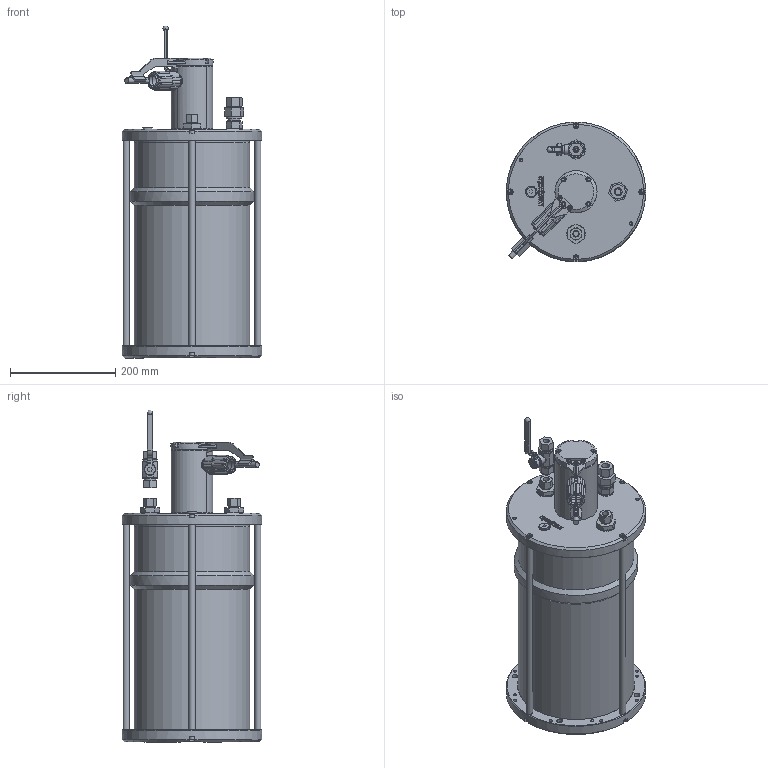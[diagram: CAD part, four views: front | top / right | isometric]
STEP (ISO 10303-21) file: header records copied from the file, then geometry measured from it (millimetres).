
FILE_DESCRIPTION(/* description */ ('HyComp 6L, incl. proportional level indicator, Std 4pol'),/* implementation_level */ '2;1');
FILE_NAME(/* name */ 'C:\Workspace\Seatools\Products\Compensators (Group)\HyComp (ME-0292)\LW\HyComp 6L (SA-0292-00001).stp',/* time_stamp */ '2020-02-05T11:39:10+01:00',/* author */ ('mas'),/* organization */ ('Seatools'),/* preprocessor_version */ 'ST-DEVELOPER v17.2',/* originating_system */ 'Autodesk Inventor 2019',/* authorisation */ '');
FILE_SCHEMA (('AUTOMOTIVE_DESIGN { 1 0 10303 214 3 1 1 }'));
Length unit declared in the file: millimetre
Products named in the file (1): SA-0292-00001
Bounding box: 265 x 265 x 630.96 mm (x, y, z)
Volume: 18333086.2 mm3; surface area: 648631.9 mm2
Topology: 3 solids, 3 shells, 984 faces, 2648 edges, 1783 vertices
Faces by surface type: plane 539, cylinder 279, cone 90, torus 49, bspline 26, sphere 1
Full cylindrical faces by diameter (mm): 4.917 x2, 6 x5, 6.5 x4, 6.647 x20, 8.5 x2, 10 x14, 10.5 x1, 11 x9, 11.445 x2, 12 x6, 15 x1, 16 x1, 18 x1, 20 x2, 21.329 x2, 22 x1, 23.017 x1, 25 x1, 25.5 x2, 26.157 x1, 27 x1, 28 x2, 28.575 x1, 29.321 x1, 30 x1, 32 x2, 33 x1, 35 x2, 80 x1, 218.4 x1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
Entity records: 34664 total; most frequent: CARTESIAN_POINT 9088, ORIENTED_EDGE 5252, DIRECTION 5232, EDGE_CURVE 2626, AXIS2_PLACEMENT_3D 1933, VERTEX_POINT 1783, LINE 1366, VECTOR 1366
